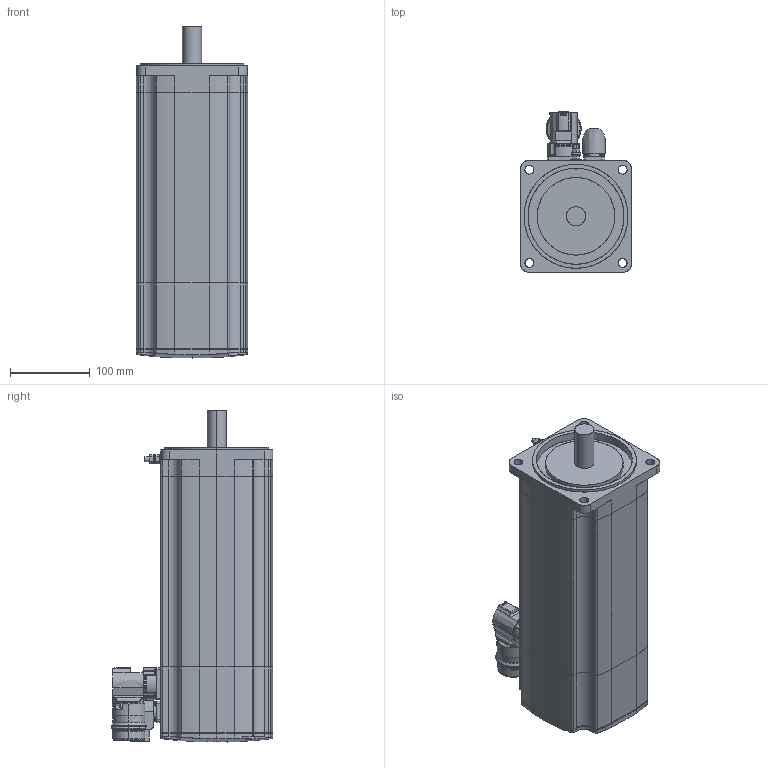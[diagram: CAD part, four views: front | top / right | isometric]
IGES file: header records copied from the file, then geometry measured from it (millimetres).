
Start section: SolidWorks IGES file using analytic representation for surfaces
Global section: file name: C:\PDM\SW-SAP\AA-IGES\SH31403x0xF2100.IGS; native system: SolidWorks 2010; preprocessor: SolidWorks 2010; author: SESA21951; date: 131129.112652; units: millimetre
Bounding box: 140 x 202 x 415.35 mm (x, y, z)
Surface area: 406263.8 mm2 (no closed solid volume)
Topology: 0 solids, 0 shells, 759 faces, 9875 edges, 9856 vertices
Faces by surface type: bspline 387, revolution 372
